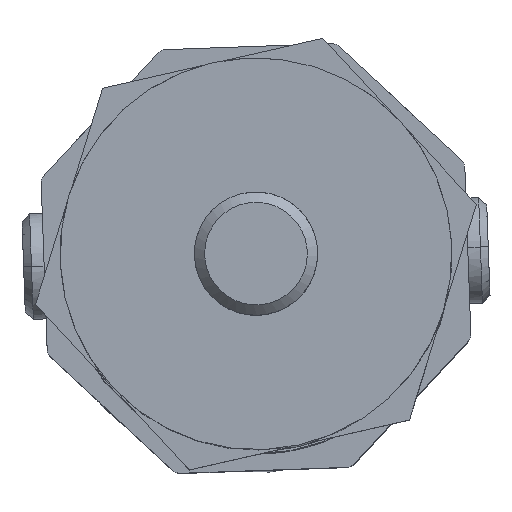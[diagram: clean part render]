
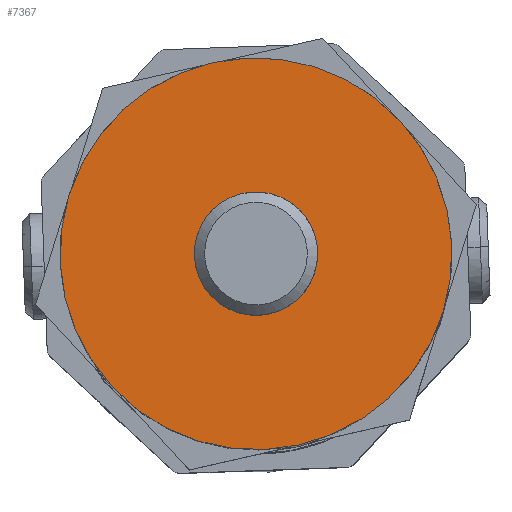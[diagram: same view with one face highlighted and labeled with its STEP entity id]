
A CAD part, top view. The second image highlights one B-rep face of the part: STEP entity #7367.
In plain terms, the highlighted planar face has unit normal (0, 0, 1) as drawn and (0, -1, 0) by its records, which use the part's own axes.
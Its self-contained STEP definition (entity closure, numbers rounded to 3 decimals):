
#347=FACE_BOUND('',#1593,.T.);
#1077=FACE_OUTER_BOUND('',#1592,.T.);
#1592=EDGE_LOOP('',(#6686));
#1593=EDGE_LOOP('',(#6687));
#1954=CIRCLE('',#8508,6.);
#1967=CIRCLE('',#8546,19.075);
#3585=VERTEX_POINT('',#34989);
#3622=VERTEX_POINT('',#35107);
#4597=EDGE_CURVE('',#3585,#3585,#1954,.T.);
#4653=EDGE_CURVE('',#3622,#3622,#1967,.T.);
#6686=ORIENTED_EDGE('',*,*,#4653,.F.);
#6687=ORIENTED_EDGE('',*,*,#4597,.T.);
#6937=PLANE('',#8545);
#7367=ADVANCED_FACE('',(#1077,#347),#6937,.T.);
#8508=AXIS2_PLACEMENT_3D('',#34990,#10401,#10402);
#8545=AXIS2_PLACEMENT_3D('',#35106,#10518,#10519);
#8546=AXIS2_PLACEMENT_3D('',#35108,#10520,#10521);
#10401=DIRECTION('center_axis',(0.,1.,0.));
#10402=DIRECTION('ref_axis',(0.,0.,
1.));
#10518=DIRECTION('center_axis',(0.,-1.,0.));
#10519=DIRECTION('ref_axis',(0.,0.,-1.));
#10520=DIRECTION('center_axis',(0.,1.,0.));
#10521=DIRECTION('ref_axis',(0.,0.,
1.));
#34989=CARTESIAN_POINT('',(0.,0.,-6.));
#34990=CARTESIAN_POINT('Origin',(0.,0.,
0.));
#35106=CARTESIAN_POINT('Origin',(-19.085,0.,0.));
#35107=CARTESIAN_POINT('',(0.,0.,-19.075));
#35108=CARTESIAN_POINT('Origin',(0.,0.,
0.));
